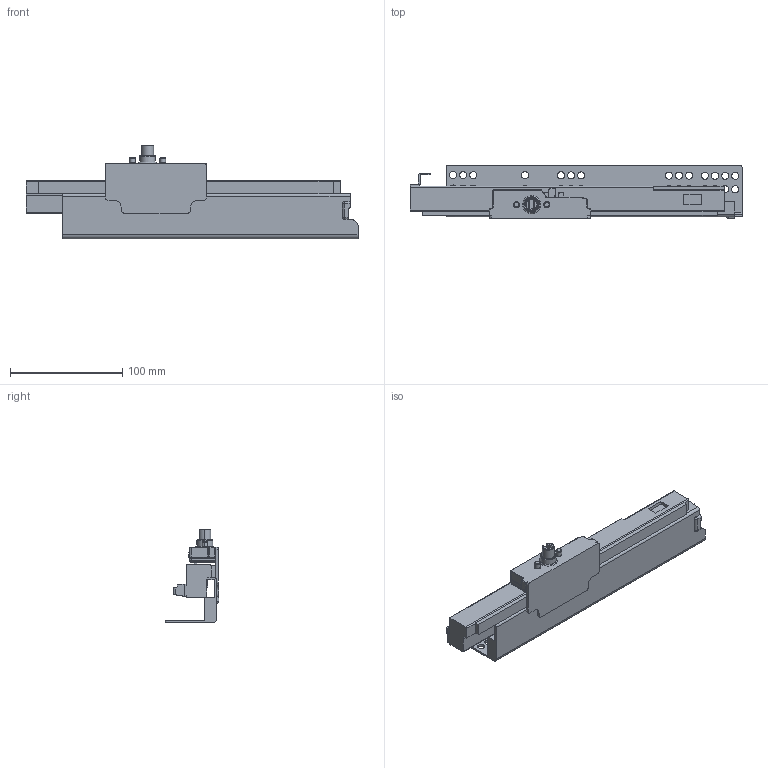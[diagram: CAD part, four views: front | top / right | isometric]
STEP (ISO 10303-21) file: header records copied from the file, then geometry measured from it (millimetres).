
FILE_DESCRIPTION (( 'STEP AP203' ), '1' );
FILE_NAME ('TF10300H-R-DTC3D-close.STEP', '2021-06-03T01:00:50', ( 'df' ), ( 'Microsoft' ), 'SwSTEP 2.0', 'SolidWorks 2018', '' );
FILE_SCHEMA (( 'CONFIG_CONTROL_DESIGN' ));
Length unit declared in the file: millimetre
Products named in the file (1): TF10300H-R-DTC3D-close
Bounding box: 295.27 x 48 x 83.3 mm (x, y, z)
Volume: 270503.2 mm3; surface area: 87081 mm2
Topology: 1 solids, 4 shells, 522 faces, 1351 edges, 833 vertices
Faces by surface type: cylinder 242, plane 172, bspline 102, sphere 4, torus 2
Entity records: 18128 total; most frequent: CARTESIAN_POINT 5574, ORIENTED_EDGE 2680, DIRECTION 2571, EDGE_CURVE 1340, AXIS2_PLACEMENT_3D 946, VERTEX_POINT 833, VECTOR 679, LINE 679
